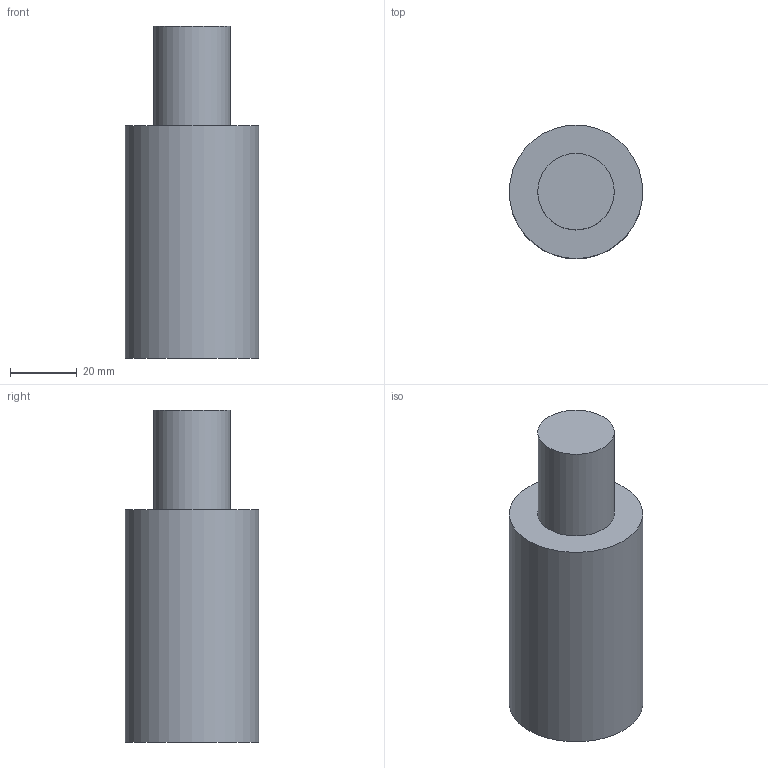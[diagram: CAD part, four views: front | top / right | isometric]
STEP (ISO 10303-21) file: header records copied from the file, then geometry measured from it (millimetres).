
FILE_DESCRIPTION(('Mechanical CAD reference from nasji.com'),'2;1');
FILE_NAME('NASJI.step','',(''),(''),'','NASJI distribution','');
FILE_SCHEMA(('AUTOMOTIVE_DESIGN { 1 0 10303 214 1 1 1 1 }'));
Length unit declared in the file: millimetre
Products named in the file (1): Open CASCADE STEP translator 7.8 194
Bounding box: 39.98 x 39.98 x 99.4 mm (x, y, z)
Volume: 99563.9 mm3; surface area: 13391.1 mm2
Topology: 1 solids, 1 shells, 5 faces, 6 edges, 4 vertices
Faces by surface type: plane 3, cylinder 2
Full cylindrical faces by diameter (mm): 22.9 x1, 39.98 x1
Entity records: 192 total; most frequent: DIRECTION 34, CARTESIAN_POINT 28, ORIENTED_EDGE 12, PCURVE 12, DEFINITIONAL_REPRESENTATION 12, AXIS2_PLACEMENT_3D 10, LINE 10, VECTOR 10
